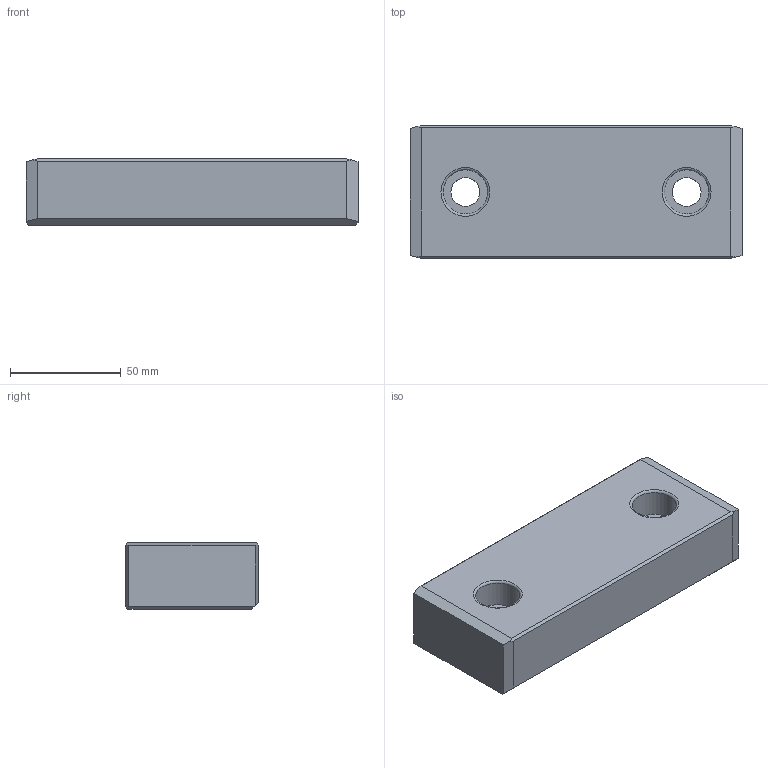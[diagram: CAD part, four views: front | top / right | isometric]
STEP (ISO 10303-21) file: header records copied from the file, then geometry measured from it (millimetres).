
FILE_DESCRIPTION(/* description */ ('Impex Ready, www.impex-ready.pl'),/* implementation_level */ '2;1');
FILE_NAME(/* name */ 'C:\Users\VIKKY\Nextcloud\SM\projekt 10 - części na stronę internetową\Pliki_3D_new\337 Listwy LR12\337 LR12_STEP\LR12.6030150.ipt.step',/* time_stamp */ '2021-12-20T13:34:45+01:00',/* author */ ('SM'),/* organization */ (''),/* preprocessor_version */ 'ST-DEVELOPER v18.1',/* originating_system */ 'Autodesk Inventor 2021',/* authorisation */ '');
FILE_SCHEMA (('AUTOMOTIVE_DESIGN { 1 0 10303 214 3 1 1 }'));
Length unit declared in the file: millimetre
Products named in the file (1): LR12.6030150
Bounding box: 150 x 60 x 30 mm (x, y, z)
Volume: 255573 mm3; surface area: 32143.9 mm2
Topology: 1 solids, 1 shells, 26 faces, 66 edges, 44 vertices
Faces by surface type: plane 20, cylinder 4, torus 2
Full cylindrical faces by diameter (mm): 13 x2, 20 x2
Entity records: 877 total; most frequent: CARTESIAN_POINT 137, DIRECTION 134, ORIENTED_EDGE 132, EDGE_CURVE 66, LINE 52, VECTOR 52, VERTEX_POINT 44, AXIS2_PLACEMENT_3D 41
